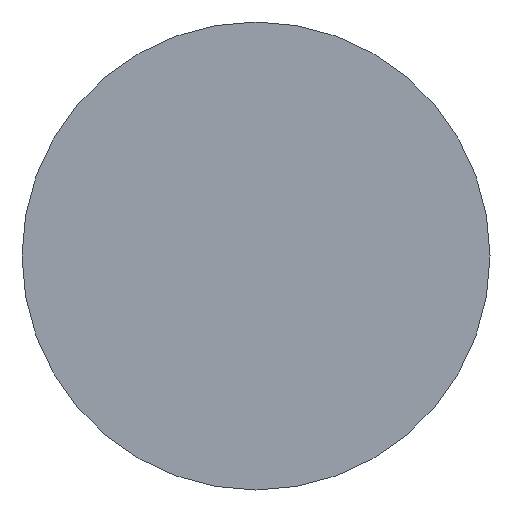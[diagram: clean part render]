
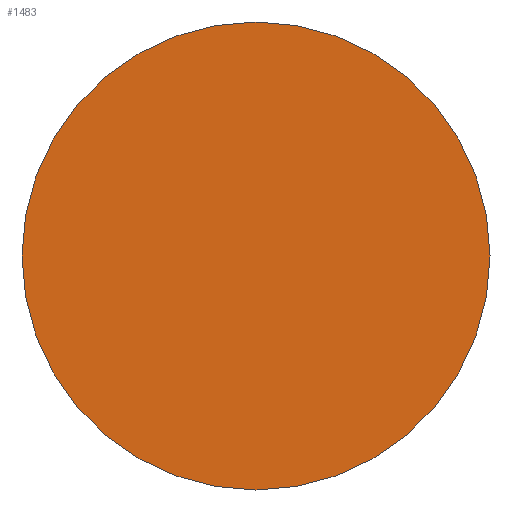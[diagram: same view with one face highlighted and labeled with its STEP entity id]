
A CAD part, left-side view. The second image highlights one B-rep face of the part: STEP entity #1483.
In plain terms, the highlighted planar face has unit normal (-1, 0, 0).
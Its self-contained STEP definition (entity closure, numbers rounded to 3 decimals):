
#26 = EDGE_LOOP ( 'NONE', ( #1775, #326 ) ) ;
#63 = PLANE ( 'NONE',  #1129 ) ;
#170 = DIRECTION ( 'NONE',  ( 0., -1., 0. ) ) ;
#326 = ORIENTED_EDGE ( 'NONE', *, *, #788, .T. ) ;
#330 = CIRCLE ( 'NONE', #888, 175. ) ;
#352 = CARTESIAN_POINT ( 'NONE',  ( -600.624, 0., 0. ) ) ;
#396 = FACE_OUTER_BOUND ( 'NONE', #26, .T. ) ;
#411 = CARTESIAN_POINT ( 'NONE',  ( -600.624, 0., 0. ) ) ;
#771 = DIRECTION ( 'NONE',  ( -1., 0., 0. ) ) ;
#784 = CARTESIAN_POINT ( 'NONE',  ( -600.624, 175., 0. ) ) ;
#788 = EDGE_CURVE ( 'NONE', #1497, #1452, #1309, .T. ) ;
#809 = EDGE_CURVE ( 'NONE', #1452, #1497, #330, .T. ) ;
#888 = AXIS2_PLACEMENT_3D ( 'NONE', #1559, #771, #170 ) ;
#920 = DIRECTION ( 'NONE',  ( -1., 0., 0. ) ) ;
#1129 = AXIS2_PLACEMENT_3D ( 'NONE', #352, #920, #1721 ) ;
#1221 = DIRECTION ( 'NONE',  ( 0., -1., 0. ) ) ;
#1309 = CIRCLE ( 'NONE', #1692, 175. ) ;
#1422 = CARTESIAN_POINT ( 'NONE',  ( -600.624, -175., 0. ) ) ;
#1452 = VERTEX_POINT ( 'NONE', #784 ) ;
#1483 = ADVANCED_FACE ( 'NONE', ( #396 ), #63, .T. ) ;
#1497 = VERTEX_POINT ( 'NONE', #1422 ) ;
#1559 = CARTESIAN_POINT ( 'NONE',  ( -600.624, 0., 0. ) ) ;
#1692 = AXIS2_PLACEMENT_3D ( 'NONE', #411, #1928, #1221 ) ;
#1721 = DIRECTION ( 'NONE',  ( 0., -1., 0. ) ) ;
#1775 = ORIENTED_EDGE ( 'NONE', *, *, #809, .T. ) ;
#1928 = DIRECTION ( 'NONE',  ( -1., 0., 0. ) ) ;
